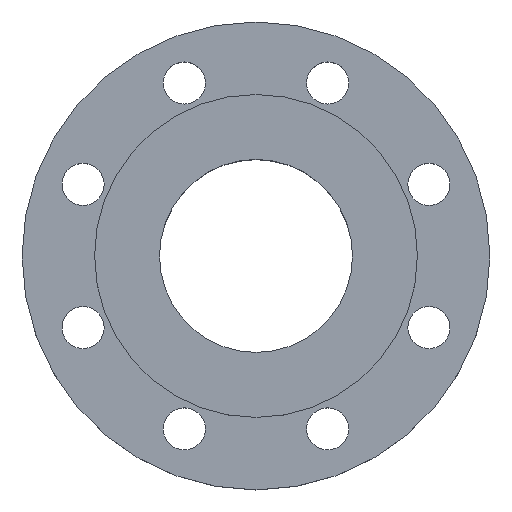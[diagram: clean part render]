
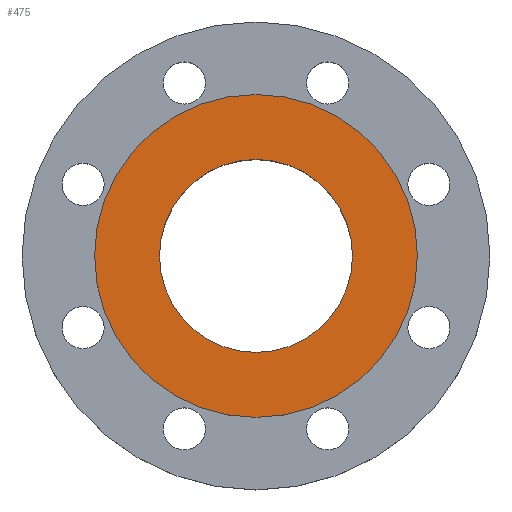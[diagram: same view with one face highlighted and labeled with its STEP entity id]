
A CAD part, top view. The second image highlights one B-rep face of the part: STEP entity #475.
In plain terms, the highlighted planar face has unit normal (0, 0, 1).
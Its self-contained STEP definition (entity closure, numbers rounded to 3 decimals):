
#13 = CIRCLE ( 'NONE', #828, 69. ) ;
#79 = CARTESIAN_POINT ( 'NONE',  ( -41.25, 0., 3.2 ) ) ;
#114 = CARTESIAN_POINT ( 'NONE',  ( -69., 0., 3.2 ) ) ;
#121 = CARTESIAN_POINT ( 'NONE',  ( 41.25, 0., 3.2 ) ) ;
#367 = CARTESIAN_POINT ( 'NONE',  ( 69., 0., 3.2 ) ) ;
#371 = DIRECTION ( 'NONE',  ( 1., 0., 0. ) ) ;
#372 = DIRECTION ( 'NONE',  ( 0., 0., 1. ) ) ;
#373 = CARTESIAN_POINT ( 'NONE',  ( 0., 0., 3.2 ) ) ;
#374 = DIRECTION ( 'NONE',  ( 1., 0., 0. ) ) ;
#375 = DIRECTION ( 'NONE',  ( 0., 0., 1. ) ) ;
#376 = CARTESIAN_POINT ( 'NONE',  ( 0., 0., 3.2 ) ) ;
#397 = DIRECTION ( 'NONE',  ( 1., 0., 0. ) ) ;
#400 = DIRECTION ( 'NONE',  ( 0., 0., 1. ) ) ;
#402 = CARTESIAN_POINT ( 'NONE',  ( 0., 0., 3.2 ) ) ;
#420 = DIRECTION ( 'NONE',  ( 1., 0., 0. ) ) ;
#421 = DIRECTION ( 'NONE',  ( 0., 0., 1. ) ) ;
#422 = CARTESIAN_POINT ( 'NONE',  ( 0., 0., 3.2 ) ) ;
#475 = ADVANCED_FACE ( 'NONE', ( #513, #511 ), #510, .T. ) ;
#492 = CIRCLE ( 'NONE', #686, 41.25 ) ;
#507 = DIRECTION ( 'NONE',  ( 1., 0., 0. ) ) ;
#508 = DIRECTION ( 'NONE',  ( 0., 0., 1. ) ) ;
#509 = CARTESIAN_POINT ( 'NONE',  ( 69., 0., 3.2 ) ) ;
#510 = PLANE ( 'NONE',  #1046 ) ;
#511 = FACE_BOUND ( 'NONE', #1032, .T. ) ;
#513 = FACE_OUTER_BOUND ( 'NONE', #805, .T. ) ;
#574 = CIRCLE ( 'NONE', #1073, 41.25 ) ;
#648 = CIRCLE ( 'NONE', #1150, 69. ) ;
#652 = EDGE_CURVE ( 'NONE', #1042, #713, #648, .T. ) ;
#675 = EDGE_CURVE ( 'NONE', #1037, #1088, #574, .T. ) ;
#686 = AXIS2_PLACEMENT_3D ( 'NONE', #376, #375, #374 ) ;
#707 = EDGE_CURVE ( 'NONE', #1088, #1037, #492, .T. ) ;
#708 = EDGE_CURVE ( 'NONE', #713, #1042, #13, .T. ) ;
#713 = VERTEX_POINT ( 'NONE', #367 ) ;
#805 = EDGE_LOOP ( 'NONE', ( #1023, #1024 ) ) ;
#828 = AXIS2_PLACEMENT_3D ( 'NONE', #373, #372, #371 ) ;
#915 = ORIENTED_EDGE ( 'NONE', *, *, #707, .F. ) ;
#1023 = ORIENTED_EDGE ( 'NONE', *, *, #708, .T. ) ;
#1024 = ORIENTED_EDGE ( 'NONE', *, *, #652, .T. ) ;
#1025 = ORIENTED_EDGE ( 'NONE', *, *, #675, .F. ) ;
#1032 = EDGE_LOOP ( 'NONE', ( #1025, #915 ) ) ;
#1037 = VERTEX_POINT ( 'NONE', #121 ) ;
#1042 = VERTEX_POINT ( 'NONE', #114 ) ;
#1046 = AXIS2_PLACEMENT_3D ( 'NONE', #509, #508, #507 ) ;
#1073 = AXIS2_PLACEMENT_3D ( 'NONE', #402, #400, #397 ) ;
#1088 = VERTEX_POINT ( 'NONE', #79 ) ;
#1150 = AXIS2_PLACEMENT_3D ( 'NONE', #422, #421, #420 ) ;
